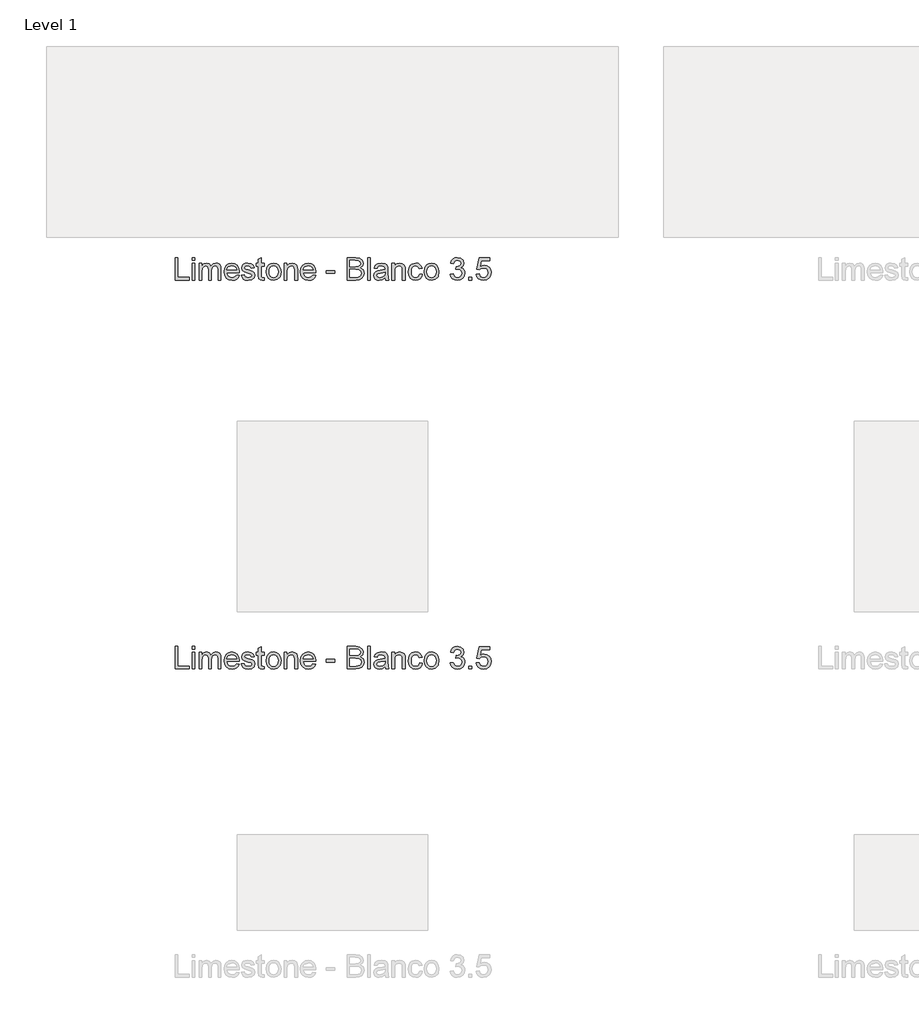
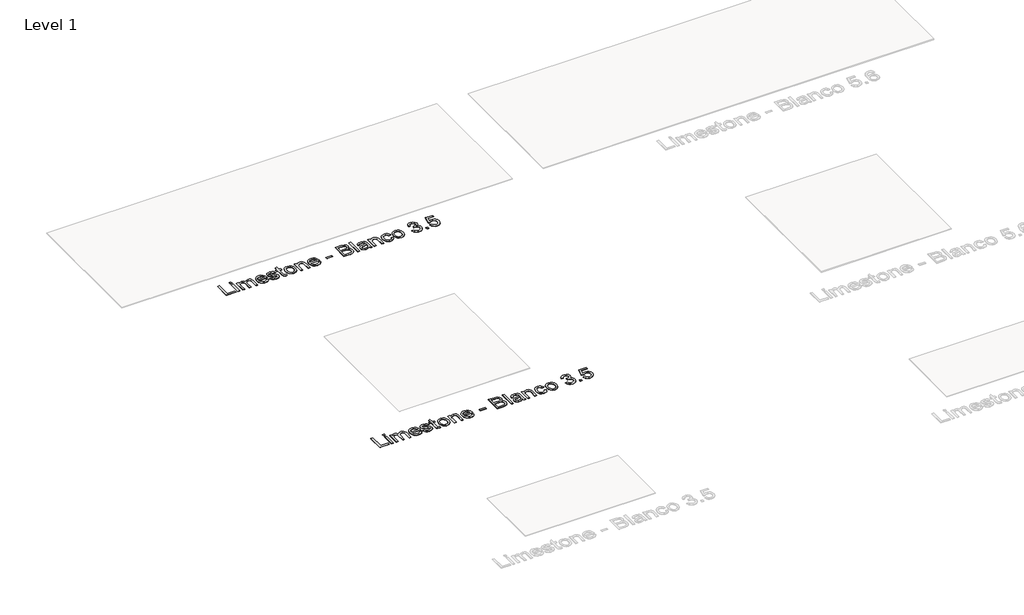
# One storey, part 68 of 80: 2 proxies.
"""IFC4 building model written with IfcOpenShell, lengths in millimetres."""

from ifc_helpers import new_model, si_unit, origin, origin_with_axes, place, context, project, spatial, polyline, outline, extrude, element, save

model = new_model("IFC4")

# Units and contexts
model_context = context("Model", 3, world=origin())
ifc_project = project(units=[si_unit("LENGTHUNIT", "METRE", prefix="MILLI")], contexts=[model_context])

# Site, building, storey
site = spatial("IfcSite", under=ifc_project)
building = spatial("IfcBuilding", under=site)
storey = spatial("IfcBuildingStorey", under=building, Name="Level 1", Elevation=0.0)

# Proxies
placement = place(None, origin())
element("IfcBuildingElementProxy", 1, Name="24\" Arial", ObjectType="24\" Arial", at=placement, inside=storey, context=model_context, shape_type="SweptSolid", body=[
    extrude(outline(polyline([(4709.2315844, 10765.2173189), (4709.2315844, 10883.3711651), (4724.0008152, 10883.3711651), (4724.0008152, 10779.9865497), (4783.0777383, 10779.9865497), (4783.0777383, 10765.2173189), (4709.2315844, 10765.2173189)])), origin_with_axes(), (0.0, 0.0, 1.0), 2.0),
    extrude(outline(polyline([(4797.846969, 10868.6019343), (4797.846969, 10883.3711651), (4812.6161998, 10883.3711651), (4812.6161998, 10868.6019343), (4797.846969, 10868.6019343)])), origin_with_axes(), (0.0, 0.0, 1.0), 2.0),
    extrude(outline(polyline([(4797.846969, 10765.2173189), (4797.846969, 10851.9865497), (4812.6161998, 10851.9865497), (4812.6161998, 10765.2173189), (4797.846969, 10765.2173189)])), origin_with_axes(), (0.0, 0.0, 1.0), 2.0),
    extrude(outline(polyline([(4834.7700459, 10765.2173189), (4834.7700459, 10851.9865497), (4849.5392767, 10851.9865497), (4849.5392767, 10837.7077035), (4859.6931229, 10849.4048189), (4874.1450459, 10853.8327035), (4888.9431229, 10849.3182805), (4897.0777383, 10836.669242), (4908.6017767, 10849.5418381), (4923.1546613, 10853.8327035), (4934.2568248, 10852.0478478), (4942.4671613, 10846.6932805), (4947.5404786, 10837.6247708), (4949.2315844, 10824.6980881), (4949.2315844, 10765.2173189), (4934.4623536, 10765.2173189), (4934.4623536, 10818.3519343), (4933.0921613, 10830.6836651), (4928.1306229, 10836.7557805), (4919.6931229, 10839.0634728), (4911.6919209, 10837.5851074), (4905.1690844, 10833.1500112), (4900.831344, 10825.4552997), (4899.3854306, 10814.1980881), (4899.3854306, 10765.2173189), (4884.6161998, 10765.2173189), (4884.6161998, 10819.9961651), (4881.1979306, 10834.3038574), (4869.9911998, 10839.0634728), (4859.0585075, 10835.8903958), (4851.7892767, 10826.6019343), (4849.5392767, 10808.9769343), (4849.5392767, 10765.2173189), (4834.7700459, 10765.2173189)])), origin_with_axes(), (0.0, 0.0, 1.0), 2.0),
    extrude(outline(polyline([(5032.1354306, 10791.0634728), (5046.6161998, 10789.2173189), (5041.3986517, 10778.3062612), (5033.0729306, 10770.1500112), (5021.8265363, 10765.0658766), (5007.846969, 10763.3711651), (4990.5176421, 10766.2954439), (4977.1835075, 10775.0682805), (4968.6811036, 10789.1199631), (4965.846969, 10807.8807805), (4968.7099498, 10827.2726074), (4977.2988921, 10841.7750112), (4990.4527383, 10850.8182805), (5007.0104306, 10853.8327035), (5023.0524979, 10850.825492), (5035.8710075, 10841.8038574), (5044.2760556, 10827.3302997), (5047.0777383, 10807.9673189), (5046.9911998, 10803.9865497), (4980.6161998, 10803.9865497), (4983.1726902, 10792.9312612), (4989.1113921, 10784.8038574), (4997.6823056, 10779.8062612), (5008.1354306, 10778.1403958), (5022.6161998, 10781.2269343), (5032.1354306, 10791.0634728)]), holes=[polyline([(4980.6161998, 10818.7557805), (5032.3085075, 10818.7557805), (5026.3950459, 10832.1403958), (5017.784469, 10837.3327035), (5006.9527383, 10839.0634728), (4988.7652383, 10833.5394343), (4983.0428825, 10827.0815016), (4980.6161998, 10818.7557805)])]), origin_with_axes(), (0.0, 0.0, 1.0), 2.0),
    extrude(outline(polyline([(5056.3085075, 10791.0634728), (5071.0777383, 10792.9096266), (5077.9142767, 10781.9480881), (5093.5777383, 10778.1403958), (5108.6354306, 10781.6307805), (5113.5392767, 10789.8230881), (5108.6065844, 10796.4577035), (5093.4046613, 10800.669242), (5071.1642767, 10807.8952035), (5061.4575459, 10816.3327035), (5058.1546613, 10828.2461651), (5060.8085075, 10839.2509728), (5068.0488921, 10847.6596266), (5077.4383152, 10852.0298189), (5090.1450459, 10853.8327035), (5108.1161998, 10850.9336651), (5119.5392767, 10843.0875112), (5124.6161998, 10829.8327035), (5109.846969, 10827.9865497), (5104.2940844, 10836.1355881), (5091.2988921, 10839.0634728), (5077.1642767, 10836.2653958), (5072.9238921, 10829.7461651), (5074.6835075, 10825.4480881), (5080.1931229, 10822.1884728), (5092.9142767, 10819.044242), (5114.5921613, 10812.0923189), (5124.659469, 10804.2173189), (5128.3085075, 10791.3807805), (5124.0248536, 10777.2461651), (5111.6642767, 10766.9913574), (5093.3758152, 10763.3711651), (5078.4839883, 10765.1163574), (5067.6161998, 10770.3519343), (5060.3613921, 10779.0202035), (5056.3085075, 10791.0634728)])), origin_with_axes(), (0.0, 0.0, 1.0), 2.0),
    extrude(outline(polyline([(5176.3085075, 10777.5346266), (5178.1546613, 10764.7846266), (5167.1065844, 10763.3711651), (5154.7315844, 10765.8230881), (5148.5585075, 10772.2557805), (5146.7700459, 10789.0153958), (5146.7700459, 10837.2173189), (5135.6931229, 10837.2173189), (5135.6931229, 10851.9865497), (5146.7700459, 10851.9865497), (5146.7700459, 10873.0730881), (5161.5392767, 10881.7557805), (5161.5392767, 10851.9865497), (5176.3085075, 10851.9865497), (5176.3085075, 10837.2173189), (5161.5392767, 10837.2173189), (5161.5392767, 10789.4480881), (5162.3181229, 10781.8327035), (5164.8421613, 10779.1355881), (5169.8758152, 10778.1403958), (5176.3085075, 10777.5346266)])), origin_with_axes(), (0.0, 0.0, 1.0), 2.0),
    extrude(outline(polyline([(5187.3854306, 10808.6019343), (5190.5801421, 10829.5226074), (5200.1642767, 10844.2269343), (5212.0056229, 10851.4312612), (5226.1835075, 10853.8327035), (5241.6991325, 10850.9084247), (5254.0921613, 10842.1355881), (5262.2159594, 10828.2065016), (5264.9238921, 10809.8134728), (5260.1354306, 10783.5346266), (5246.1883152, 10768.6644343), (5226.1835075, 10763.3711651), (5210.4803825, 10766.2846266), (5198.1017767, 10775.0250112), (5190.0645171, 10789.2461651), (5187.3854306, 10808.6019343)]), holes=[polyline([(5202.1546613, 10808.6307805), (5203.8637959, 10795.2641939), (5208.9911998, 10785.7413574), (5216.7075459, 10780.0406362), (5226.1835075, 10778.1403958), (5235.6161998, 10780.0514535), (5243.3181229, 10785.7846266), (5248.4455267, 10795.4336651), (5250.1546613, 10809.0923189), (5248.4347094, 10822.0694824), (5243.2748536, 10831.4625112), (5235.5621133, 10837.1632324), (5226.1835075, 10839.0634728), (5216.7075459, 10837.1704439), (5208.9911998, 10831.4913574), (5203.8637959, 10821.9901555), (5202.1546613, 10808.6307805)])]), origin_with_axes(), (0.0, 0.0, 1.0), 2.0),
    extrude(outline(polyline([(5281.5392767, 10765.2173189), (5281.5392767, 10851.9865497), (5296.3085075, 10851.9865497), (5296.3085075, 10839.8711651), (5307.6017767, 10850.3423189), (5323.0200459, 10853.8327035), (5336.9671613, 10851.0202035), (5346.4863921, 10843.6355881), (5350.9142767, 10832.7750112), (5351.6931229, 10818.4961651), (5351.6931229, 10765.2173189), (5336.9238921, 10765.2173189), (5336.9238921, 10816.5057805), (5335.221969, 10829.5730881), (5329.2075459, 10836.481742), (5319.0681229, 10839.0634728), (5303.0440844, 10833.2653958), (5297.9924017, 10824.8639535), (5296.3085075, 10811.2557805), (5296.3085075, 10765.2173189), (5281.5392767, 10765.2173189)])), origin_with_axes(), (0.0, 0.0, 1.0), 2.0),
    extrude(outline(polyline([(5432.7508152, 10791.0634728), (5447.2315844, 10789.2173189), (5442.0140363, 10778.3062612), (5433.6883152, 10770.1500112), (5422.4419209, 10765.0658766), (5408.4623536, 10763.3711651), (5391.1330267, 10766.2954439), (5377.7988921, 10775.0682805), (5369.2964883, 10789.1199631), (5366.4623536, 10807.8807805), (5369.3253344, 10827.2726074), (5377.9142767, 10841.7750112), (5391.0681229, 10850.8182805), (5407.6258152, 10853.8327035), (5423.6678825, 10850.825492), (5436.4863921, 10841.8038574), (5444.8914402, 10827.3302997), (5447.6931229, 10807.9673189), (5447.6065844, 10803.9865497), (5381.2315844, 10803.9865497), (5383.7880748, 10792.9312612), (5389.7267767, 10784.8038574), (5398.2976902, 10779.8062612), (5408.7508152, 10778.1403958), (5423.2315844, 10781.2269343), (5432.7508152, 10791.0634728)]), holes=[polyline([(5381.2315844, 10818.7557805), (5432.9238921, 10818.7557805), (5427.0104306, 10832.1403958), (5418.3998536, 10837.3327035), (5407.5681229, 10839.0634728), (5389.3806229, 10833.5394343), (5383.6582671, 10827.0815016), (5381.2315844, 10818.7557805)])]), origin_with_axes(), (0.0, 0.0, 1.0), 2.0),
    extrude(outline(polyline([(5501.2315844, 10800.294242), (5501.2315844, 10815.0634728), (5547.3854306, 10815.0634728), (5547.3854306, 10800.294242), (5501.2315844, 10800.294242)])), origin_with_axes(), (0.0, 0.0, 1.0), 2.0),
    extrude(outline(polyline([(5612.0008152, 10765.2173189), (5612.0008152, 10883.3711651), (5657.0873536, 10883.3711651), (5679.1690844, 10879.8952035), (5692.2075459, 10869.2077035), (5696.9238921, 10854.0923189), (5692.9575459, 10840.2894343), (5680.971969, 10829.8327035), (5695.5248536, 10818.8134728), (5700.6161998, 10800.4384728), (5697.1402383, 10784.5586651), (5688.5296613, 10773.2509728), (5675.6786998, 10767.2509728), (5656.7411998, 10765.2173189), (5612.0008152, 10765.2173189)]), holes=[polyline([(5626.7700459, 10779.9865497), (5657.0585075, 10779.9865497), (5668.0200459, 10780.5634728), (5677.2940844, 10783.7798189), (5683.4383152, 10790.3423189), (5685.846969, 10800.294242), (5683.0200459, 10811.7750112), (5673.8613921, 10818.6259728), (5655.6161998, 10820.6019343), (5626.7700459, 10820.6019343), (5626.7700459, 10779.9865497)]), polyline([(5626.7700459, 10835.3711651), (5653.7411998, 10835.3711651), (5669.4911998, 10836.6403958), (5678.9671613, 10842.106742), (5682.1546613, 10851.7269343), (5679.1835075, 10861.3615497), (5670.6738921, 10867.0586651), (5651.6931229, 10868.6019343), (5626.7700459, 10868.6019343), (5626.7700459, 10835.3711651)])]), origin_with_axes(), (0.0, 0.0, 1.0), 2.0),
    extrude(outline(polyline([(5719.0777383, 10765.2173189), (5719.0777383, 10883.3711651), (5733.846969, 10883.3711651), (5733.846969, 10765.2173189), (5719.0777383, 10765.2173189)])), origin_with_axes(), (0.0, 0.0, 1.0), 2.0),
    extrude(outline(polyline([(5811.3854306, 10776.294242), (5797.0633152, 10766.2846266), (5781.2411998, 10763.3711651), (5768.8986517, 10765.1235689), (5759.7940844, 10770.3807805), (5754.1799017, 10778.3639535), (5752.3085075, 10788.294242), (5755.1354306, 10799.9769343), (5762.5633152, 10808.4577035), (5772.9046613, 10813.3038574), (5785.6835075, 10815.5250112), (5811.2988921, 10820.6019343), (5811.3854306, 10823.8903958), (5807.3181229, 10834.794242), (5790.9911998, 10839.0634728), (5776.0488921, 10836.2221266), (5768.9238921, 10826.1403958), (5754.1546613, 10827.9865497), (5760.5440844, 10842.4096266), (5773.409469, 10850.8615497), (5792.8950459, 10853.8327035), (5810.7940844, 10851.2077035), (5820.9046613, 10844.6163574), (5825.4335075, 10834.5923189), (5826.1546613, 10821.669242), (5826.1546613, 10803.294242), (5826.9046613, 10777.6355881), (5829.846969, 10765.2173189), (5815.0777383, 10765.2173189), (5811.3854306, 10776.294242)]), holes=[polyline([(5811.3854306, 10805.8327035), (5787.5585075, 10801.3038574), (5774.8517767, 10798.9096266), (5769.096969, 10795.0153958), (5767.0777383, 10789.3327035), (5771.4767767, 10781.3423189), (5784.3854306, 10778.1403958), (5799.3277383, 10781.6740497), (5808.9623536, 10790.2269343), (5811.2988921, 10801.6500112), (5811.3854306, 10805.8327035)])]), origin_with_axes(), (0.0, 0.0, 1.0), 2.0),
    extrude(outline(polyline([(5846.4623536, 10765.2173189), (5846.4623536, 10851.9865497), (5861.2315844, 10851.9865497), (5861.2315844, 10839.8711651), (5872.5248536, 10850.3423189), (5887.9431229, 10853.8327035), (5901.8902383, 10851.0202035), (5911.409469, 10843.6355881), (5915.8373536, 10832.7750112), (5916.6161998, 10818.4961651), (5916.6161998, 10765.2173189), (5901.846969, 10765.2173189), (5901.846969, 10816.5057805), (5900.1450459, 10829.5730881), (5894.1306229, 10836.481742), (5883.9911998, 10839.0634728), (5867.9671613, 10833.2653958), (5862.9154786, 10824.8639535), (5861.2315844, 10811.2557805), (5861.2315844, 10765.2173189), (5846.4623536, 10765.2173189)])), origin_with_axes(), (0.0, 0.0, 1.0), 2.0),
    extrude(outline(polyline([(5992.3085075, 10796.6019343), (6007.0777383, 10794.7557805), (6002.9599498, 10781.6199631), (5995.221969, 10771.6932805), (5984.5921613, 10765.4516939), (5971.7988921, 10763.3711651), (5956.0885556, 10766.2738093), (5943.8036998, 10774.981742), (5935.8746133, 10789.1127516), (5933.2315844, 10808.2846266), (5937.7460075, 10832.8182805), (5943.4431229, 10842.0165978), (5951.5056229, 10848.5827035), (5971.596969, 10853.8327035), (5984.0765363, 10852.0298189), (5994.0536998, 10846.6211651), (6001.2111517, 10837.8952035), (6005.2315844, 10826.1403958), (5990.4623536, 10824.294242), (5983.6113921, 10835.356742), (5971.7123536, 10839.0634728), (5962.1678825, 10837.2389535), (5954.5921613, 10831.7653958), (5949.6486517, 10822.3471266), (5948.0008152, 10808.6884728), (5949.612594, 10794.8459247), (5954.4479306, 10785.3952035), (5961.8866325, 10779.9540978), (5971.3085075, 10778.1403958), (5985.2267767, 10782.669242), (5992.3085075, 10796.6019343)])), origin_with_axes(), (0.0, 0.0, 1.0), 2.0),
    extrude(outline(polyline([(6016.3085075, 10808.6019343), (6019.503219, 10829.5226074), (6029.0873536, 10844.2269343), (6040.9286998, 10851.4312612), (6055.1065844, 10853.8327035), (6070.6222094, 10850.9084247), (6083.0152383, 10842.1355881), (6091.1390363, 10828.2065016), (6093.846969, 10809.8134728), (6089.0585075, 10783.5346266), (6075.1113921, 10768.6644343), (6055.1065844, 10763.3711651), (6039.4034594, 10766.2846266), (6027.0248536, 10775.0250112), (6018.987594, 10789.2461651), (6016.3085075, 10808.6019343)]), holes=[polyline([(6031.0777383, 10808.6307805), (6032.7868729, 10795.2641939), (6037.9142767, 10785.7413574), (6045.6306229, 10780.0406362), (6055.1065844, 10778.1403958), (6064.5392767, 10780.0514535), (6072.2411998, 10785.7846266), (6077.3686036, 10795.4336651), (6079.0777383, 10809.0923189), (6077.3577863, 10822.0694824), (6072.1979306, 10831.4625112), (6064.4851902, 10837.1632324), (6055.1065844, 10839.0634728), (6045.6306229, 10837.1704439), (6037.9142767, 10831.4913574), (6032.7868729, 10821.9901555), (6031.0777383, 10808.6307805)])]), origin_with_axes(), (0.0, 0.0, 1.0), 2.0),
    extrude(outline(polyline([(6152.9238921, 10796.6019343), (6167.6931229, 10798.4480881), (6175.8421613, 10782.9000112), (6191.0873536, 10778.1403958), (6201.2123536, 10779.7774151), (6209.0296613, 10784.6884728), (6214.0272575, 10792.0153958), (6215.6931229, 10800.9000112), (6214.0416806, 10809.3339055), (6209.0873536, 10816.1740497), (6201.5873536, 10820.7065016), (6192.2988921, 10822.2173189), (6181.9431229, 10820.6019343), (6183.5873536, 10835.3711651), (6185.9527383, 10835.1980881), (6202.7123536, 10839.4384728), (6208.2940844, 10844.8182805), (6210.1546613, 10852.4769343), (6204.7604306, 10864.0298189), (6190.8565844, 10868.6019343), (6176.7796613, 10863.9865497), (6169.5392767, 10850.1403958), (6154.7700459, 10851.9865497), (6159.1186036, 10865.2485689), (6166.8565844, 10875.1500112), (6177.4431229, 10881.3158766), (6190.3373536, 10883.3711651), (6208.1498536, 10879.3182805), (6220.6113921, 10868.2413574), (6224.9238921, 10853.3423189), (6220.8277383, 10839.7269343), (6208.7123536, 10829.9480881), (6217.9575459, 10826.2125112), (6224.8085075, 10819.8519343), (6229.0488921, 10811.2125112), (6230.4623536, 10800.6403958), (6227.6354306, 10786.2461651), (6219.1546613, 10774.2173189), (6206.3541806, 10766.0827035), (6190.5681229, 10763.3711651), (6176.2892767, 10765.6860689), (6164.6642767, 10772.6307805), (6156.5801421, 10783.2533766), (6152.9238921, 10796.6019343)])), origin_with_axes(), (0.0, 0.0, 1.0), 2.0),
    extrude(outline(polyline([(6250.7700459, 10765.2173189), (6250.7700459, 10779.9865497), (6265.5392767, 10779.9865497), (6265.5392767, 10765.2173189), (6250.7700459, 10765.2173189)])), origin_with_axes(), (0.0, 0.0, 1.0), 2.0),
    extrude(outline(polyline([(6289.5392767, 10796.6019343), (6304.3085075, 10798.4480881), (6311.7508152, 10783.231742), (6327.1835075, 10778.1403958), (6337.7700459, 10779.9108285), (6345.7027383, 10785.2221266), (6350.6570652, 10793.4613093), (6352.3085075, 10804.0153958), (6350.7616325, 10813.9528958), (6346.1210075, 10821.5538574), (6338.3505748, 10826.3783766), (6327.4142767, 10827.9865497), (6314.4479306, 10825.419242), (6306.1546613, 10818.7557805), (6291.3854306, 10820.6019343), (6304.3085075, 10881.5250112), (6361.5392767, 10881.5250112), (6361.5392767, 10866.7557805), (6316.2508152, 10866.7557805), (6309.9335075, 10834.2173189), (6320.4839883, 10840.6211651), (6331.5392767, 10842.7557805), (6345.3385556, 10840.1091458), (6356.7940844, 10832.169242), (6364.5068248, 10820.0682805), (6367.0777383, 10804.9384728), (6364.7628344, 10790.169242), (6357.8181229, 10777.5346266), (6344.5200459, 10766.9120305), (6327.1258152, 10763.3711651), (6312.6198056, 10765.6464055), (6301.0633152, 10772.4721266), (6293.1414402, 10783.0550593), (6289.5392767, 10796.6019343)])), origin_with_axes(), (0.0, 0.0, 1.0), 2.0),
])
element("IfcBuildingElementProxy", 2, Name="24\" Arial", ObjectType="24\" Arial", at=placement, inside=storey, context=model_context, shape_type="SweptSolid", body=[
    extrude(outline(polyline([(4709.2315844, 8724.5734229), (4709.2315844, 8842.727269), (4724.0008152, 8842.727269), (4724.0008152, 8739.3426536), (4783.0777383, 8739.3426536), (4783.0777383, 8724.5734229), (4709.2315844, 8724.5734229)])), origin_with_axes(), (0.0, 0.0, 1.0), 2.0),
    extrude(outline(polyline([(4797.846969, 8827.9580383), (4797.846969, 8842.727269), (4812.6161998, 8842.727269), (4812.6161998, 8827.9580383), (4797.846969, 8827.9580383)])), origin_with_axes(), (0.0, 0.0, 1.0), 2.0),
    extrude(outline(polyline([(4797.846969, 8724.5734229), (4797.846969, 8811.3426536), (4812.6161998, 8811.3426536), (4812.6161998, 8724.5734229), (4797.846969, 8724.5734229)])), origin_with_axes(), (0.0, 0.0, 1.0), 2.0),
    extrude(outline(polyline([(4834.7700459, 8724.5734229), (4834.7700459, 8811.3426536), (4849.5392767, 8811.3426536), (4849.5392767, 8797.0638075), (4859.6931229, 8808.7609229), (4874.1450459, 8813.1888075), (4888.9431229, 8808.6743844), (4897.0777383, 8796.025346), (4908.6017767, 8808.8979421), (4923.1546613, 8813.1888075), (4934.2568248, 8811.4039517), (4942.4671613, 8806.0493844), (4947.5404786, 8796.9808748), (4949.2315844, 8784.0541921), (4949.2315844, 8724.5734229), (4934.4623536, 8724.5734229), (4934.4623536, 8777.7080383), (4933.0921613, 8790.039769), (4928.1306229, 8796.1118844), (4919.6931229, 8798.4195767), (4911.6919209, 8796.9412113), (4905.1690844, 8792.5061152), (4900.831344, 8784.8114036), (4899.3854306, 8773.5541921), (4899.3854306, 8724.5734229), (4884.6161998, 8724.5734229), (4884.6161998, 8779.352269), (4881.1979306, 8793.6599613), (4869.9911998, 8798.4195767), (4859.0585075, 8795.2464998), (4851.7892767, 8785.9580383), (4849.5392767, 8768.3330383), (4849.5392767, 8724.5734229), (4834.7700459, 8724.5734229)])), origin_with_axes(), (0.0, 0.0, 1.0), 2.0),
    extrude(outline(polyline([(5032.1354306, 8750.4195767), (5046.6161998, 8748.5734229), (5041.3986517, 8737.6623652), (5033.0729306, 8729.5061152), (5021.8265363, 8724.4219806), (5007.846969, 8722.727269), (4990.5176421, 8725.6515479), (4977.1835075, 8734.4243844), (4968.6811036, 8748.4760671), (4965.846969, 8767.2368844), (4968.7099498, 8786.6287113), (4977.2988921, 8801.1311152), (4990.4527383, 8810.1743844), (5007.0104306, 8813.1888075), (5023.0524979, 8810.181596), (5035.8710075, 8801.1599613), (5044.2760556, 8786.6864036), (5047.0777383, 8767.3234229), (5046.9911998, 8763.3426536), (4980.6161998, 8763.3426536), (4983.1726902, 8752.2873652), (4989.1113921, 8744.1599613), (4997.6823056, 8739.1623652), (5008.1354306, 8737.4964998), (5022.6161998, 8740.5830383), (5032.1354306, 8750.4195767)]), holes=[polyline([(4980.6161998, 8778.1118844), (5032.3085075, 8778.1118844), (5026.3950459, 8791.4964998), (5017.784469, 8796.6888075), (5006.9527383, 8798.4195767), (4988.7652383, 8792.8955383), (4983.0428825, 8786.4376056), (4980.6161998, 8778.1118844)])]), origin_with_axes(), (0.0, 0.0, 1.0), 2.0),
    extrude(outline(polyline([(5056.3085075, 8750.4195767), (5071.0777383, 8752.2657306), (5077.9142767, 8741.3041921), (5093.5777383, 8737.4964998), (5108.6354306, 8740.9868844), (5113.5392767, 8749.1791921), (5108.6065844, 8755.8138075), (5093.4046613, 8760.025346), (5071.1642767, 8767.2513075), (5061.4575459, 8775.6888075), (5058.1546613, 8787.602269), (5060.8085075, 8798.6070767), (5068.0488921, 8807.0157306), (5077.4383152, 8811.3859229), (5090.1450459, 8813.1888075), (5108.1161998, 8810.289769), (5119.5392767, 8802.4436152), (5124.6161998, 8789.1888075), (5109.846969, 8787.3426536), (5104.2940844, 8795.4916921), (5091.2988921, 8798.4195767), (5077.1642767, 8795.6214998), (5072.9238921, 8789.102269), (5074.6835075, 8784.8041921), (5080.1931229, 8781.5445767), (5092.9142767, 8778.400346), (5114.5921613, 8771.4484229), (5124.659469, 8763.5734229), (5128.3085075, 8750.7368844), (5124.0248536, 8736.602269), (5111.6642767, 8726.3474613), (5093.3758152, 8722.727269), (5078.4839883, 8724.4724613), (5067.6161998, 8729.7080383), (5060.3613921, 8738.3763075), (5056.3085075, 8750.4195767)])), origin_with_axes(), (0.0, 0.0, 1.0), 2.0),
    extrude(outline(polyline([(5176.3085075, 8736.8907306), (5178.1546613, 8724.1407306), (5167.1065844, 8722.727269), (5154.7315844, 8725.1791921), (5148.5585075, 8731.6118844), (5146.7700459, 8748.3714998), (5146.7700459, 8796.5734229), (5135.6931229, 8796.5734229), (5135.6931229, 8811.3426536), (5146.7700459, 8811.3426536), (5146.7700459, 8832.4291921), (5161.5392767, 8841.1118844), (5161.5392767, 8811.3426536), (5176.3085075, 8811.3426536), (5176.3085075, 8796.5734229), (5161.5392767, 8796.5734229), (5161.5392767, 8748.8041921), (5162.3181229, 8741.1888075), (5164.8421613, 8738.4916921), (5169.8758152, 8737.4964998), (5176.3085075, 8736.8907306)])), origin_with_axes(), (0.0, 0.0, 1.0), 2.0),
    extrude(outline(polyline([(5187.3854306, 8767.9580383), (5190.5801421, 8788.8787113), (5200.1642767, 8803.5830383), (5212.0056229, 8810.7873652), (5226.1835075, 8813.1888075), (5241.6991325, 8810.2645286), (5254.0921613, 8801.4916921), (5262.2159594, 8787.5626056), (5264.9238921, 8769.1695767), (5260.1354306, 8742.8907306), (5246.1883152, 8728.0205383), (5226.1835075, 8722.727269), (5210.4803825, 8725.6407306), (5198.1017767, 8734.3811152), (5190.0645171, 8748.602269), (5187.3854306, 8767.9580383)]), holes=[polyline([(5202.1546613, 8767.9868844), (5203.8637959, 8754.6202979), (5208.9911998, 8745.0974613), (5216.7075459, 8739.3967402), (5226.1835075, 8737.4964998), (5235.6161998, 8739.4075575), (5243.3181229, 8745.1407306), (5248.4455267, 8754.789769), (5250.1546613, 8768.4484229), (5248.4347094, 8781.4255863), (5243.2748536, 8790.8186152), (5235.5621133, 8796.5193363), (5226.1835075, 8798.4195767), (5216.7075459, 8796.5265479), (5208.9911998, 8790.8474613), (5203.8637959, 8781.3462594), (5202.1546613, 8767.9868844)])]), origin_with_axes(), (0.0, 0.0, 1.0), 2.0),
    extrude(outline(polyline([(5281.5392767, 8724.5734229), (5281.5392767, 8811.3426536), (5296.3085075, 8811.3426536), (5296.3085075, 8799.227269), (5307.6017767, 8809.6984229), (5323.0200459, 8813.1888075), (5336.9671613, 8810.3763075), (5346.4863921, 8802.9916921), (5350.9142767, 8792.1311152), (5351.6931229, 8777.852269), (5351.6931229, 8724.5734229), (5336.9238921, 8724.5734229), (5336.9238921, 8775.8618844), (5335.221969, 8788.9291921), (5329.2075459, 8795.837846), (5319.0681229, 8798.4195767), (5303.0440844, 8792.6214998), (5297.9924017, 8784.2200575), (5296.3085075, 8770.6118844), (5296.3085075, 8724.5734229), (5281.5392767, 8724.5734229)])), origin_with_axes(), (0.0, 0.0, 1.0), 2.0),
    extrude(outline(polyline([(5432.7508152, 8750.4195767), (5447.2315844, 8748.5734229), (5442.0140363, 8737.6623652), (5433.6883152, 8729.5061152), (5422.4419209, 8724.4219806), (5408.4623536, 8722.727269), (5391.1330267, 8725.6515479), (5377.7988921, 8734.4243844), (5369.2964883, 8748.4760671), (5366.4623536, 8767.2368844), (5369.3253344, 8786.6287113), (5377.9142767, 8801.1311152), (5391.0681229, 8810.1743844), (5407.6258152, 8813.1888075), (5423.6678825, 8810.181596), (5436.4863921, 8801.1599613), (5444.8914402, 8786.6864036), (5447.6931229, 8767.3234229), (5447.6065844, 8763.3426536), (5381.2315844, 8763.3426536), (5383.7880748, 8752.2873652), (5389.7267767, 8744.1599613), (5398.2976902, 8739.1623652), (5408.7508152, 8737.4964998), (5423.2315844, 8740.5830383), (5432.7508152, 8750.4195767)]), holes=[polyline([(5381.2315844, 8778.1118844), (5432.9238921, 8778.1118844), (5427.0104306, 8791.4964998), (5418.3998536, 8796.6888075), (5407.5681229, 8798.4195767), (5389.3806229, 8792.8955383), (5383.6582671, 8786.4376056), (5381.2315844, 8778.1118844)])]), origin_with_axes(), (0.0, 0.0, 1.0), 2.0),
    extrude(outline(polyline([(5501.2315844, 8759.650346), (5501.2315844, 8774.4195767), (5547.3854306, 8774.4195767), (5547.3854306, 8759.650346), (5501.2315844, 8759.650346)])), origin_with_axes(), (0.0, 0.0, 1.0), 2.0),
    extrude(outline(polyline([(5612.0008152, 8724.5734229), (5612.0008152, 8842.727269), (5657.0873536, 8842.727269), (5679.1690844, 8839.2513075), (5692.2075459, 8828.5638075), (5696.9238921, 8813.4484229), (5692.9575459, 8799.6455383), (5680.971969, 8789.1888075), (5695.5248536, 8778.1695767), (5700.6161998, 8759.7945767), (5697.1402383, 8743.914769), (5688.5296613, 8732.6070767), (5675.6786998, 8726.6070767), (5656.7411998, 8724.5734229), (5612.0008152, 8724.5734229)]), holes=[polyline([(5626.7700459, 8739.3426536), (5657.0585075, 8739.3426536), (5668.0200459, 8739.9195767), (5677.2940844, 8743.1359229), (5683.4383152, 8749.6984229), (5685.846969, 8759.650346), (5683.0200459, 8771.1311152), (5673.8613921, 8777.9820767), (5655.6161998, 8779.9580383), (5626.7700459, 8779.9580383), (5626.7700459, 8739.3426536)]), polyline([(5626.7700459, 8794.727269), (5653.7411998, 8794.727269), (5669.4911998, 8795.9964998), (5678.9671613, 8801.462846), (5682.1546613, 8811.0830383), (5679.1835075, 8820.7176536), (5670.6738921, 8826.414769), (5651.6931229, 8827.9580383), (5626.7700459, 8827.9580383), (5626.7700459, 8794.727269)])]), origin_with_axes(), (0.0, 0.0, 1.0), 2.0),
    extrude(outline(polyline([(5719.0777383, 8724.5734229), (5719.0777383, 8842.727269), (5733.846969, 8842.727269), (5733.846969, 8724.5734229), (5719.0777383, 8724.5734229)])), origin_with_axes(), (0.0, 0.0, 1.0), 2.0),
    extrude(outline(polyline([(5811.3854306, 8735.650346), (5797.0633152, 8725.6407306), (5781.2411998, 8722.727269), (5768.8986517, 8724.4796729), (5759.7940844, 8729.7368844), (5754.1799017, 8737.7200575), (5752.3085075, 8747.650346), (5755.1354306, 8759.3330383), (5762.5633152, 8767.8138075), (5772.9046613, 8772.6599613), (5785.6835075, 8774.8811152), (5811.2988921, 8779.9580383), (5811.3854306, 8783.2464998), (5807.3181229, 8794.150346), (5790.9911998, 8798.4195767), (5776.0488921, 8795.5782306), (5768.9238921, 8785.4964998), (5754.1546613, 8787.3426536), (5760.5440844, 8801.7657306), (5773.409469, 8810.2176536), (5792.8950459, 8813.1888075), (5810.7940844, 8810.5638075), (5820.9046613, 8803.9724613), (5825.4335075, 8793.9484229), (5826.1546613, 8781.025346), (5826.1546613, 8762.650346), (5826.9046613, 8736.9916921), (5829.846969, 8724.5734229), (5815.0777383, 8724.5734229), (5811.3854306, 8735.650346)]), holes=[polyline([(5811.3854306, 8765.1888075), (5787.5585075, 8760.6599613), (5774.8517767, 8758.2657306), (5769.096969, 8754.3714998), (5767.0777383, 8748.6888075), (5771.4767767, 8740.6984229), (5784.3854306, 8737.4964998), (5799.3277383, 8741.0301536), (5808.9623536, 8749.5830383), (5811.2988921, 8761.0061152), (5811.3854306, 8765.1888075)])]), origin_with_axes(), (0.0, 0.0, 1.0), 2.0),
    extrude(outline(polyline([(5846.4623536, 8724.5734229), (5846.4623536, 8811.3426536), (5861.2315844, 8811.3426536), (5861.2315844, 8799.227269), (5872.5248536, 8809.6984229), (5887.9431229, 8813.1888075), (5901.8902383, 8810.3763075), (5911.409469, 8802.9916921), (5915.8373536, 8792.1311152), (5916.6161998, 8777.852269), (5916.6161998, 8724.5734229), (5901.846969, 8724.5734229), (5901.846969, 8775.8618844), (5900.1450459, 8788.9291921), (5894.1306229, 8795.837846), (5883.9911998, 8798.4195767), (5867.9671613, 8792.6214998), (5862.9154786, 8784.2200575), (5861.2315844, 8770.6118844), (5861.2315844, 8724.5734229), (5846.4623536, 8724.5734229)])), origin_with_axes(), (0.0, 0.0, 1.0), 2.0),
    extrude(outline(polyline([(5992.3085075, 8755.9580383), (6007.0777383, 8754.1118844), (6002.9599498, 8740.9760671), (5995.221969, 8731.0493844), (5984.5921613, 8724.8077979), (5971.7988921, 8722.727269), (5956.0885556, 8725.6299133), (5943.8036998, 8734.337846), (5935.8746133, 8748.4688556), (5933.2315844, 8767.6407306), (5937.7460075, 8792.1743844), (5943.4431229, 8801.3727017), (5951.5056229, 8807.9388075), (5971.596969, 8813.1888075), (5984.0765363, 8811.3859229), (5994.0536998, 8805.977269), (6001.2111517, 8797.2513075), (6005.2315844, 8785.4964998), (5990.4623536, 8783.650346), (5983.6113921, 8794.712846), (5971.7123536, 8798.4195767), (5962.1678825, 8796.5950575), (5954.5921613, 8791.1214998), (5949.6486517, 8781.7032306), (5948.0008152, 8768.0445767), (5949.612594, 8754.2020286), (5954.4479306, 8744.7513075), (5961.8866325, 8739.3102017), (5971.3085075, 8737.4964998), (5985.2267767, 8742.025346), (5992.3085075, 8755.9580383)])), origin_with_axes(), (0.0, 0.0, 1.0), 2.0),
    extrude(outline(polyline([(6016.3085075, 8767.9580383), (6019.503219, 8788.8787113), (6029.0873536, 8803.5830383), (6040.9286998, 8810.7873652), (6055.1065844, 8813.1888075), (6070.6222094, 8810.2645286), (6083.0152383, 8801.4916921), (6091.1390363, 8787.5626056), (6093.846969, 8769.1695767), (6089.0585075, 8742.8907306), (6075.1113921, 8728.0205383), (6055.1065844, 8722.727269), (6039.4034594, 8725.6407306), (6027.0248536, 8734.3811152), (6018.987594, 8748.602269), (6016.3085075, 8767.9580383)]), holes=[polyline([(6031.0777383, 8767.9868844), (6032.7868729, 8754.6202979), (6037.9142767, 8745.0974613), (6045.6306229, 8739.3967402), (6055.1065844, 8737.4964998), (6064.5392767, 8739.4075575), (6072.2411998, 8745.1407306), (6077.3686036, 8754.789769), (6079.0777383, 8768.4484229), (6077.3577863, 8781.4255863), (6072.1979306, 8790.8186152), (6064.4851902, 8796.5193363), (6055.1065844, 8798.4195767), (6045.6306229, 8796.5265479), (6037.9142767, 8790.8474613), (6032.7868729, 8781.3462594), (6031.0777383, 8767.9868844)])]), origin_with_axes(), (0.0, 0.0, 1.0), 2.0),
    extrude(outline(polyline([(6152.9238921, 8755.9580383), (6167.6931229, 8757.8041921), (6175.8421613, 8742.2561152), (6191.0873536, 8737.4964998), (6201.2123536, 8739.133519), (6209.0296613, 8744.0445767), (6214.0272575, 8751.3714998), (6215.6931229, 8760.2561152), (6214.0416806, 8768.6900094), (6209.0873536, 8775.5301536), (6201.5873536, 8780.0626056), (6192.2988921, 8781.5734229), (6181.9431229, 8779.9580383), (6183.5873536, 8794.727269), (6185.9527383, 8794.5541921), (6202.7123536, 8798.7945767), (6208.2940844, 8804.1743844), (6210.1546613, 8811.8330383), (6204.7604306, 8823.3859229), (6190.8565844, 8827.9580383), (6176.7796613, 8823.3426536), (6169.5392767, 8809.4964998), (6154.7700459, 8811.3426536), (6159.1186036, 8824.6046729), (6166.8565844, 8834.5061152), (6177.4431229, 8840.6719806), (6190.3373536, 8842.727269), (6208.1498536, 8838.6743844), (6220.6113921, 8827.5974613), (6224.9238921, 8812.6984229), (6220.8277383, 8799.0830383), (6208.7123536, 8789.3041921), (6217.9575459, 8785.5686152), (6224.8085075, 8779.2080383), (6229.0488921, 8770.5686152), (6230.4623536, 8759.9964998), (6227.6354306, 8745.602269), (6219.1546613, 8733.5734229), (6206.3541806, 8725.4388075), (6190.5681229, 8722.727269), (6176.2892767, 8725.0421729), (6164.6642767, 8731.9868844), (6156.5801421, 8742.6094806), (6152.9238921, 8755.9580383)])), origin_with_axes(), (0.0, 0.0, 1.0), 2.0),
    extrude(outline(polyline([(6250.7700459, 8724.5734229), (6250.7700459, 8739.3426536), (6265.5392767, 8739.3426536), (6265.5392767, 8724.5734229), (6250.7700459, 8724.5734229)])), origin_with_axes(), (0.0, 0.0, 1.0), 2.0),
    extrude(outline(polyline([(6289.5392767, 8755.9580383), (6304.3085075, 8757.8041921), (6311.7508152, 8742.587846), (6327.1835075, 8737.4964998), (6337.7700459, 8739.2669325), (6345.7027383, 8744.5782306), (6350.6570652, 8752.8174133), (6352.3085075, 8763.3714998), (6350.7616325, 8773.3089998), (6346.1210075, 8780.9099613), (6338.3505748, 8785.7344806), (6327.4142767, 8787.3426536), (6314.4479306, 8784.775346), (6306.1546613, 8778.1118844), (6291.3854306, 8779.9580383), (6304.3085075, 8840.8811152), (6361.5392767, 8840.8811152), (6361.5392767, 8826.1118844), (6316.2508152, 8826.1118844), (6309.9335075, 8793.5734229), (6320.4839883, 8799.977269), (6331.5392767, 8802.1118844), (6345.3385556, 8799.4652498), (6356.7940844, 8791.525346), (6364.5068248, 8779.4243844), (6367.0777383, 8764.2945767), (6364.7628344, 8749.525346), (6357.8181229, 8736.8907306), (6344.5200459, 8726.2681344), (6327.1258152, 8722.727269), (6312.6198056, 8725.0025094), (6301.0633152, 8731.8282306), (6293.1414402, 8742.4111633), (6289.5392767, 8755.9580383)])), origin_with_axes(), (0.0, 0.0, 1.0), 2.0),
])

save(model, "model.ifc")
